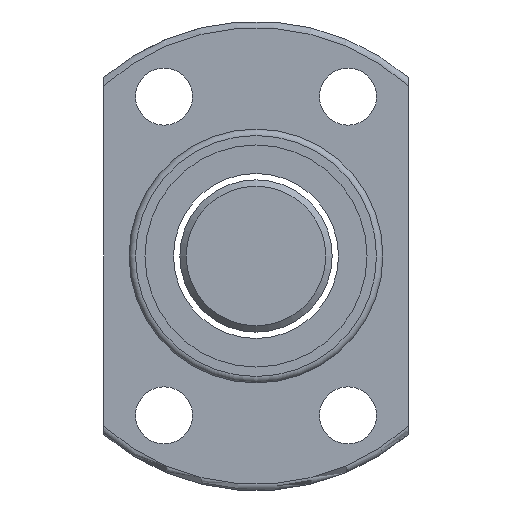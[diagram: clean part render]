
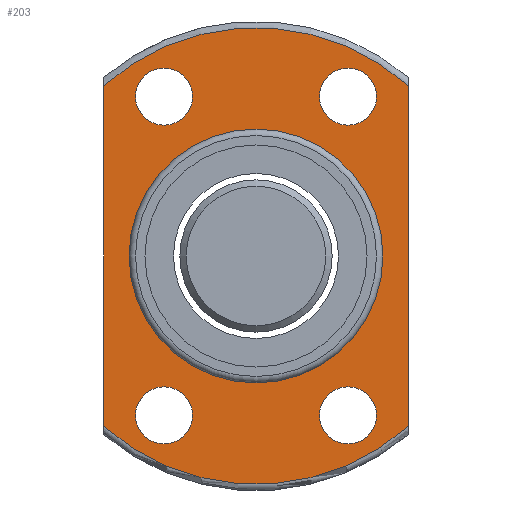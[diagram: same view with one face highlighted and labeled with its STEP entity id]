
A CAD part, left-side view. The second image highlights one B-rep face of the part: STEP entity #203.
In plain terms, the highlighted planar face has unit normal (-1, 0, 0).
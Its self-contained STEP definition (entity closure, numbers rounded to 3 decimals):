
#106=PLANE('',#600);
#123=FACE_BOUND('',#270,.T.);
#124=FACE_BOUND('',#271,.T.);
#125=FACE_BOUND('',#272,.T.);
#126=FACE_BOUND('',#273,.T.);
#127=FACE_BOUND('',#274,.T.);
#186=LINE('',#1001,#194);
#187=LINE('',#1002,#195);
#194=VECTOR('',#695,1.);
#195=VECTOR('',#696,1.);
#203=ADVANCED_FACE('',(#243,#123,#124,#125,#126,#127),#106,.T.);
#243=FACE_OUTER_BOUND('',#269,.T.);
#269=EDGE_LOOP('',(#395,#396,#397,#398));
#270=EDGE_LOOP('',(#399));
#271=EDGE_LOOP('',(#400));
#272=EDGE_LOOP('',(#401));
#273=EDGE_LOOP('',(#402));
#274=EDGE_LOOP('',(#403));
#328=CIRCLE('',#580,18.);
#337=CIRCLE('',#593,18.);
#338=CIRCLE('',#595,10.);
#339=CIRCLE('',#596,2.25);
#340=CIRCLE('',#597,2.25);
#341=CIRCLE('',#598,2.25);
#342=CIRCLE('',#599,2.25);
#395=ORIENTED_EDGE('',*,*,#540,.F.);
#396=ORIENTED_EDGE('',*,*,#522,.F.);
#397=ORIENTED_EDGE('',*,*,#541,.T.);
#398=ORIENTED_EDGE('',*,*,#538,.F.);
#399=ORIENTED_EDGE('',*,*,#542,.T.);
#400=ORIENTED_EDGE('',*,*,#543,.F.);
#401=ORIENTED_EDGE('',*,*,#544,.F.);
#402=ORIENTED_EDGE('',*,*,#545,.F.);
#403=ORIENTED_EDGE('',*,*,#546,.F.);
#474=VERTEX_POINT('',#878);
#475=VERTEX_POINT('',#898);
#487=VERTEX_POINT('',#981);
#488=VERTEX_POINT('',#983);
#489=VERTEX_POINT('',#1004);
#490=VERTEX_POINT('',#1006);
#491=VERTEX_POINT('',#1008);
#492=VERTEX_POINT('',#1010);
#493=VERTEX_POINT('',#1012);
#522=EDGE_CURVE('',#475,#474,#328,.T.);
#538=EDGE_CURVE('',#487,#488,#337,.T.);
#540=EDGE_CURVE('',#474,#487,#186,.T.);
#541=EDGE_CURVE('',#475,#488,#187,.T.);
#542=EDGE_CURVE('',#489,#489,#338,.T.);
#543=EDGE_CURVE('',#490,#490,#339,.T.);
#544=EDGE_CURVE('',#491,#491,#340,.T.);
#545=EDGE_CURVE('',#492,#492,#341,.T.);
#546=EDGE_CURVE('',#493,#493,#342,.T.);
#580=AXIS2_PLACEMENT_3D('',#899,#661,#662);
#593=AXIS2_PLACEMENT_3D('',#982,#691,#692);
#595=AXIS2_PLACEMENT_3D('',#1003,#697,#698);
#596=AXIS2_PLACEMENT_3D('',#1005,#699,#700);
#597=AXIS2_PLACEMENT_3D('',#1007,#701,#702);
#598=AXIS2_PLACEMENT_3D('',#1009,#703,#704);
#599=AXIS2_PLACEMENT_3D('',#1011,#705,#706);
#600=AXIS2_PLACEMENT_3D('',#1013,#707,#708);
#661=DIRECTION('',(1.,0.,0.));
#662=DIRECTION('',(0.,1.,0.));
#691=DIRECTION('',(1.,0.,0.));
#692=DIRECTION('',(0.,1.,0.));
#695=DIRECTION('',(0.,0.,1.));
#696=DIRECTION('',(0.,0.,1.));
#697=DIRECTION('',(1.,0.,0.));
#698=DIRECTION('',(0.,1.,0.));
#699=DIRECTION('',(-1.,0.,0.));
#700=DIRECTION('',(0.,-1.,0.));
#701=DIRECTION('',(-1.,0.,0.));
#702=DIRECTION('',(0.,-1.,0.));
#703=DIRECTION('',(-1.,0.,0.));
#704=DIRECTION('',(0.,-1.,0.));
#705=DIRECTION('',(-1.,0.,0.));
#706=DIRECTION('',(0.,-1.,0.));
#707=DIRECTION('',(-1.,0.,0.));
#708=DIRECTION('',(0.,-1.,0.));
#878=CARTESIAN_POINT('',(-16.,12.,-13.416));
#898=CARTESIAN_POINT('',(-16.,-12.,-13.416));
#899=CARTESIAN_POINT('',(-16.,0.,0.));
#981=CARTESIAN_POINT('',(-16.,12.,13.416));
#982=CARTESIAN_POINT('',(-16.,0.,0.));
#983=CARTESIAN_POINT('',(-16.,-12.,13.416));
#1001=CARTESIAN_POINT('',(-16.,12.,0.));
#1002=CARTESIAN_POINT('',(-16.,-12.,0.));
#1003=CARTESIAN_POINT('',(-16.,0.,0.));
#1004=CARTESIAN_POINT('',(-16.,10.,0.));
#1005=CARTESIAN_POINT('',(-16.,7.25,12.56));
#1006=CARTESIAN_POINT('',(-16.,5.,12.56));
#1007=CARTESIAN_POINT('',(-16.,-7.25,12.56));
#1008=CARTESIAN_POINT('',(-16.,-9.5,12.56));
#1009=CARTESIAN_POINT('',(-16.,-7.25,-12.56));
#1010=CARTESIAN_POINT('',(-16.,-9.5,-12.56));
#1011=CARTESIAN_POINT('',(-16.,7.25,-12.56));
#1012=CARTESIAN_POINT('',(-16.,5.,-12.56));
#1013=CARTESIAN_POINT('',(-16.,14.,0.));
